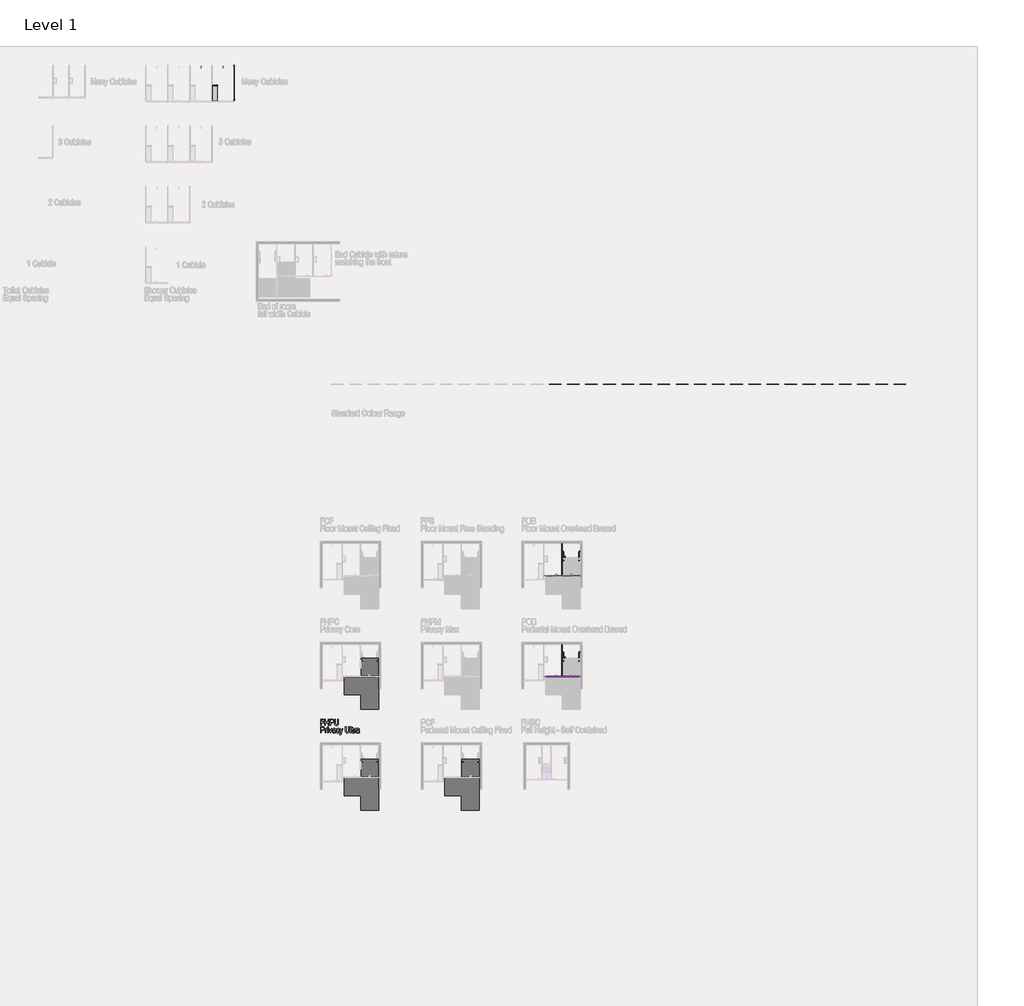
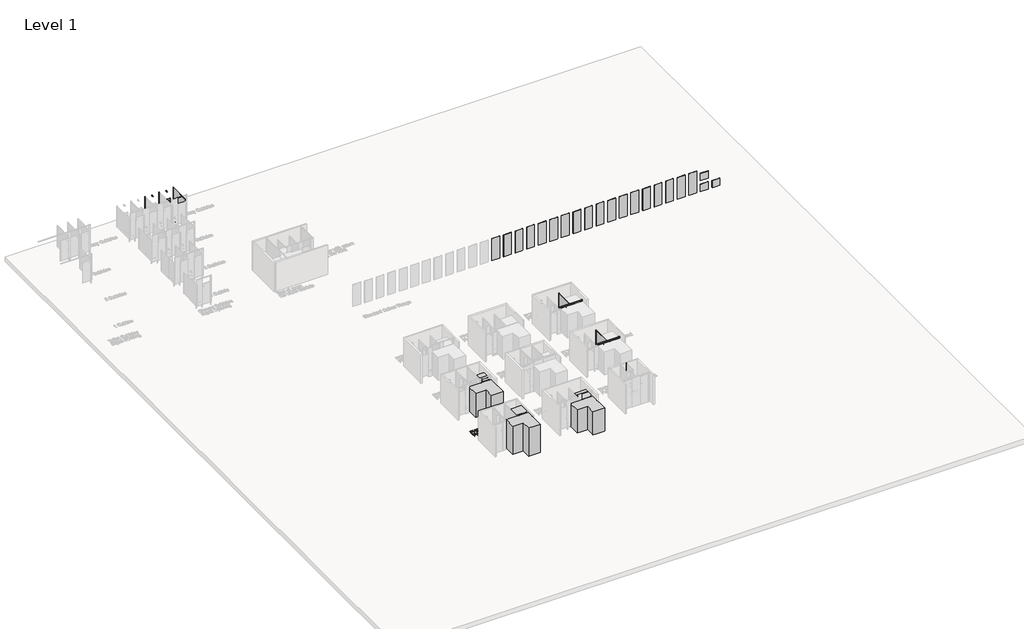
# One storey, part 7 of 21: 66 furniture elements, 13 proxies, 2 flow terminals.
"""IFC4 building model written with IfcOpenShell, lengths in millimetres."""

from ifc_helpers import new_model, si_unit, origin, origin_with_axes, place, context, project, spatial, polyline, outline, extrude, transform, mapped, element, save
from components import grab_rail_angled_generic_variable_c761e824, grab_rail_angled_generic_variable_3e2c0b31, standard_dce6ad6e, standard_8dc82752, standard_7e643c00, standard_ee242849, standard_f88c7766, standard_ef1a4fdd, toilet_paper_dispenser_single_generic_jumbo_roll_standard_5525cc7b, shower_outlet_generic_cylinder_fixed_standard_5790de0d, furniture_50x50x3_ea_0fb80352, single_jumbo_roll_84fdac57, standard_17157e73, standard_9bd00577, standard_65739662, standard_f6136b52, standard_0900acf0, standard_426d7a24, standard_dad66a1c, standard_26855e31, standard_478cbe62, standard_b3e6c0d4, standard_d9afaeec, standard_fdf829a3, standard_b1f0228c, standard_31cafe8a, standard_3d746f33, standard_ba3eb68e, standard_a495ee6c, standard_6f46902e, standard_dc7732f7, standard_b1effbfe, standard_4ddd5521

model = new_model("IFC4")

# Units and contexts
model_context = context("Model", 3, world=origin())
ifc_project = project(units=[si_unit("LENGTHUNIT", "METRE", prefix="MILLI")], contexts=[model_context])

# Site, building, storey
site = spatial("IfcSite", under=ifc_project)
building = spatial("IfcBuilding", under=site)
storey = spatial("IfcBuildingStorey", under=building, Name="Level 1", Elevation=0.0)

# Proxies
placement = place(None, origin())
element("IfcBuildingElementProxy", 1, Name="Arial Narrow-300mm", ObjectType="Arial Narrow-300mm", at=placement, inside=storey, context=model_context, shape_type="SweptSolid", body=[
    extrude(outline(polyline([(-11218.8829157, 1023.6753804), (-11218.8829157, 1328.8527498), (-11051.5275841, 1328.8527498), (-11051.5275841, 1294.3972403), (-11189.3496219, 1294.3972403), (-11189.3496219, 1195.9529276), (-11071.2164466, 1195.9529276), (-11071.2164466, 1161.4974182), (-11189.3496219, 1161.4974182), (-11189.3496219, 1023.6753804), (-11218.8829157, 1023.6753804)])), origin_with_axes(), (0.0, 0.0, 1.0), 5.0),
    extrude(outline(polyline([(-11007.2276434, 1023.6753804), (-11007.2276434, 1328.8527498), (-10977.6943496, 1328.8527498), (-10977.6943496, 1200.8751433), (-10844.7945274, 1200.8751433), (-10844.7945274, 1328.8527498), (-10815.2612336, 1328.8527498), (-10815.2612336, 1023.6753804), (-10844.7945274, 1023.6753804), (-10844.7945274, 1166.4196338), (-10977.6943496, 1166.4196338), (-10977.6943496, 1023.6753804), (-11007.2276434, 1023.6753804)])), origin_with_axes(), (0.0, 0.0, 1.0), 5.0),
    extrude(outline(polyline([(-10756.194646, 1023.6753804), (-10756.194646, 1328.8527498), (-10661.3650854, 1328.8527498), (-10632.2547945, 1327.4299218), (-10611.9891098, 1323.161438), (-10592.4156117, 1312.0960665), (-10577.2259619, 1294.4356951), (-10567.4776676, 1271.0647846), (-10564.2282362, 1242.8677954), (-10569.6407507, 1206.278044), (-10576.4063938, 1190.7663352), (-10585.8782941, 1177.1100709), (-10598.6717285, 1165.9725967), (-10615.4019742, 1158.0172579), (-10636.0690309, 1153.2440547), (-10660.6728988, 1151.6529869), (-10726.6613522, 1151.6529869), (-10726.6613522, 1023.6753804), (-10756.194646, 1023.6753804)]), holes=[polyline([(-10726.6613522, 1186.1084964), (-10657.0581467, 1186.1084964), (-10628.620815, 1189.5405881), (-10608.9896347, 1199.8368634), (-10597.5685562, 1217.0550044), (-10593.76153, 1241.2526934), (-10595.636202, 1257.9516945), (-10601.2602179, 1272.0549959), (-10609.5376157, 1282.8511837), (-10619.3724333, 1289.6288439), (-10634.273672, 1293.2051412), (-10657.7503333, 1294.3972403), (-10726.6613522, 1294.3972403), (-10726.6613522, 1186.1084964)])]), origin_with_axes(), (0.0, 0.0, 1.0), 5.0),
    extrude(outline(polyline([(-10362.4173952, 1328.8527498), (-10332.8841014, 1328.8527498), (-10332.8841014, 1152.7297216), (-10334.9895022, 1112.40024), (-10341.3057047, 1080.0116765), (-10353.1786272, 1054.5930474), (-10371.954188, 1035.1733685), (-10397.1997705, 1022.8582157), (-10428.4827582, 1018.7531648), (-10451.1158171, 1020.5989956), (-10470.7157529, 1026.1364882), (-10487.2825656, 1035.3656425), (-10500.8162551, 1048.2864586), (-10511.3312421, 1065.8891477), (-10518.8419471, 1089.1639212), (-10523.3483702, 1118.1107792), (-10524.8505112, 1152.7297216), (-10524.8505112, 1328.8527498), (-10495.3172173, 1328.8527498), (-10495.3172173, 1151.6529869), (-10493.6732742, 1115.726581), (-10488.7414449, 1091.3173906), (-10480.079499, 1074.8971869), (-10467.2452063, 1062.9377411), (-10450.6904107, 1055.6409409), (-10430.8669564, 1053.2086742), (-10399.8146976, 1058.2366406), (-10387.9946505, 1064.5215985), (-10378.6453249, 1073.3205397), (-10371.5456056, 1085.7582672), (-10366.4743776, 1102.9595842), (-10362.4173952, 1151.6529869), (-10362.4173952, 1328.8527498)])), origin_with_axes(), (0.0, 0.0, 1.0), 5.0),
    extrude(outline(polyline([(-11218.8829157, 650.573168), (-11218.8829157, 955.7505374), (-11124.0533551, 955.7505374), (-11094.9430642, 954.3277094), (-11074.6773795, 950.0592255), (-11055.1038814, 938.9938541), (-11039.9142316, 921.3334827), (-11030.1659373, 897.9625722), (-11026.9165059, 869.765583), (-11032.3290204, 833.1758316), (-11039.0946635, 817.6641228), (-11048.5665638, 804.0078585), (-11061.3599982, 792.8703843), (-11078.0902439, 784.9150455), (-11098.7573006, 780.1418423), (-11123.3611685, 778.5507745), (-11189.3496219, 778.5507745), (-11189.3496219, 650.573168), (-11218.8829157, 650.573168)]), holes=[polyline([(-11189.3496219, 813.006284), (-11119.7464164, 813.006284), (-11091.3090847, 816.4383757), (-11071.6779044, 826.734651), (-11060.2568259, 843.952792), (-11056.4497997, 868.150481), (-11058.3244717, 884.8494821), (-11063.9484876, 898.9527835), (-11072.2258854, 909.7489713), (-11082.060703, 916.5266315), (-11096.9619417, 920.1029288), (-11120.438603, 921.2950279), (-11189.3496219, 921.2950279), (-11189.3496219, 813.006284)])]), origin_with_axes(), (0.0, 0.0, 1.0), 5.0),
    extrude(outline(polyline([(-10987.5387808, 650.573168), (-10987.5387808, 872.0728716), (-10958.005487, 872.0728716), (-10958.005487, 842.693397), (-10948.122601, 859.9596065), (-10939.0857207, 870.2270407), (-10929.933476, 875.3030756), (-10919.7044966, 876.9950872), (-10904.5533016, 874.5339794), (-10889.0944681, 867.1506559), (-10898.9388994, 837.6173621), (-10921.857966, 842.5395778), (-10931.5005095, 840.7802702), (-10940.2778198, 835.5023476), (-10947.3823459, 827.0711306), (-10952.0065367, 815.8519399), (-10958.005487, 769.167801), (-10958.005487, 650.573168), (-10987.5387808, 650.573168)])), origin_with_axes(), (0.0, 0.0, 1.0), 5.0),
    extrude(outline(polyline([(-10874.3278212, 911.4505967), (-10874.3278212, 955.7505374), (-10844.7945274, 955.7505374), (-10844.7945274, 911.4505967), (-10874.3278212, 911.4505967)])), origin_with_axes(), (0.0, 0.0, 1.0), 5.0),
    extrude(outline(polyline([(-10874.3278212, 650.573168), (-10874.3278212, 872.0728716), (-10844.7945274, 872.0728716), (-10844.7945274, 650.573168), (-10874.3278212, 650.573168)])), origin_with_axes(), (0.0, 0.0, 1.0), 5.0),
    extrude(outline(polyline([(-10746.504034, 650.573168), (-10816.1841491, 872.0728716), (-10785.7279398, 872.0728716), (-10745.9656666, 739.4806879), (-10734.0446756, 694.8731087), (-10722.8158712, 737.0195801), (-10682.3614115, 872.0728716), (-10651.9052022, 872.0728716), (-10716.4323728, 650.573168), (-10746.504034, 650.573168)])), origin_with_axes(), (0.0, 0.0, 1.0), 5.0),
    extrude(outline(polyline([(-10505.1616486, 678.1068117), (-10520.783915, 663.9554418), (-10537.0406858, 653.803372), (-10553.9319609, 647.6890573), (-10571.4577404, 645.6509524), (-10596.7610052, 649.9386636), (-10616.3729581, 662.8017975), (-10628.9476809, 682.9136629), (-10633.1392551, 708.9475691), (-10631.1299913, 727.0790118), (-10625.1021999, 743.0185304), (-10615.5942482, 756.2373712), (-10603.1445036, 766.2067806), (-10585.6283378, 773.4651259), (-10560.9211226, 778.5507745), (-10527.9845781, 785.3572758), (-10505.1616486, 793.3174214), (-10505.1616486, 802.7773046), (-10507.2574357, 821.889345), (-10513.5447971, 834.3102485), (-10528.4652633, 844.1739072), (-10549.6923182, 847.4617934), (-10568.919723, 845.3948474), (-10582.6096352, 839.1940093), (-10592.0887458, 827.282632), (-10598.6837457, 808.0840683), (-10628.2170395, 813.006284), (-10618.4302904, 841.9146871), (-10601.9908593, 861.7285278), (-10577.9758307, 873.1784474), (-10545.4622891, 876.9950872), (-10519.8706133, 874.3128642), (-10500.4701618, 866.2661953), (-10487.1744114, 854.258681), (-10479.8968387, 839.6939219), (-10475.6283548, 793.394331), (-10475.6283548, 743.3261689), (-10473.6287047, 677.1454415), (-10465.7839235, 650.573168), (-10495.3172173, 650.573168), (-10501.5468965, 663.2248004), (-10505.1616486, 678.1068117)]), holes=[polyline([(-10505.1616486, 763.7841276), (-10527.2539368, 755.7470724), (-10557.9985571, 749.0174807), (-10586.493571, 741.288064), (-10599.1067486, 728.9825249), (-10603.6059613, 710.6395807), (-10601.0294891, 696.1132763), (-10593.3000723, 684.8364034), (-10581.0137606, 677.5972855), (-10564.7666036, 675.1842462), (-10548.2502628, 677.3665566), (-10533.3105693, 683.913488), (-10520.947348, 694.1040125), (-10512.160424, 707.2171026), (-10506.9113425, 725.1274302), (-10505.1616486, 749.7096673), (-10505.1616486, 763.7841276)])]), origin_with_axes(), (0.0, 0.0, 1.0), 5.0),
    extrude(outline(polyline([(-10318.1174545, 729.3286182), (-10288.5841607, 724.4064025), (-10297.6691095, 690.5757837), (-10314.6180668, 665.8397274), (-10337.5852019, 650.6981461), (-10364.7246838, 645.6509524), (-10381.7024822, 647.4799593), (-10397.1036335, 652.9669799), (-10410.9281376, 662.1120143), (-10423.1759944, 674.9150625), (-10433.2030861, 691.3040217), (-10440.3652944, 711.2067891), (-10444.6626193, 734.6233648), (-10446.095061, 761.5537487), (-10444.6193577, 788.5946901), (-10440.1922477, 812.0353), (-10432.8137311, 831.8755784), (-10422.4838079, 848.1155252), (-10409.8369823, 860.7503336), (-10395.5077589, 869.7751967), (-10379.4961375, 875.1901146), (-10361.8021182, 876.9950872), (-10335.5086421, 872.6881485), (-10313.6951514, 859.7673325), (-10297.6306546, 838.2326391), (-10288.5841607, 808.0840683), (-10318.1174545, 803.1618527), (-10324.4240433, 822.5911453), (-10334.1146553, 836.425263), (-10346.6316958, 844.7026608), (-10361.4175701, 847.4617934), (-10383.2118335, 842.3569174), (-10400.9106597, 827.0422895), (-10412.6489903, 800.6142216), (-10416.5617672, 762.1690256), (-10412.918174, 722.5990265), (-10401.9873943, 695.7191145), (-10385.3653029, 680.3179633), (-10364.6477742, 675.1842462), (-10348.1025923, 678.4817461), (-10334.1531101, 688.3742459), (-10323.81838, 705.2078388), (-10318.1174545, 729.3286182)])), origin_with_axes(), (0.0, 0.0, 1.0), 5.0),
    extrude(outline(polyline([(-10263.9730825, 566.8955022), (-10263.9730825, 601.3510117), (-10248.5911586, 596.428796), (-10234.3628791, 600.7357347), (-10225.1337248, 614.1949181), (-10212.751276, 654.0341009), (-10278.7397294, 872.0728716), (-10248.1297009, 872.0728716), (-10210.4439875, 752.5553232), (-10197.4462618, 704.7944496), (-10185.1407227, 751.786227), (-10146.9166419, 872.0728716), (-10116.3066134, 872.0728716), (-10184.2947169, 646.8815063), (-10205.2525882, 589.2377466), (-10213.4146215, 576.7687746), (-10222.5957073, 568.356785), (-10232.9400511, 563.5691612), (-10244.5918584, 561.9732866), (-10263.9730825, 566.8955022)])), origin_with_axes(), (0.0, 0.0, 1.0), 5.0),
    extrude(outline(polyline([(-9825.895891, 955.7505374), (-9796.3625972, 955.7505374), (-9796.3625972, 779.6275092), (-9798.467998, 739.2980276), (-9804.7842005, 706.9094641), (-9816.657123, 681.490835), (-9835.4326838, 662.0711561), (-9860.6782663, 649.7560033), (-9891.961254, 645.6509524), (-9914.5943129, 647.4967832), (-9934.1942487, 653.0342758), (-9950.7610613, 662.2634301), (-9964.2947509, 675.1842462), (-9974.8097379, 692.7869353), (-9982.3204429, 716.0617088), (-9986.8268659, 745.0085668), (-9988.3290069, 779.6275092), (-9988.3290069, 955.7505374), (-9958.7957131, 955.7505374), (-9958.7957131, 778.5507745), (-9957.15177, 742.6243686), (-9952.2199407, 718.2151782), (-9943.5579948, 701.7949745), (-9930.7237021, 689.8355287), (-9914.1689065, 682.5387285), (-9894.3454522, 680.1064618), (-9863.2931934, 685.1344282), (-9851.4731462, 691.4193861), (-9842.1238207, 700.2183273), (-9835.0241014, 712.6560548), (-9829.9528734, 729.8573718), (-9825.895891, 778.5507745), (-9825.895891, 955.7505374)])), origin_with_axes(), (0.0, 0.0, 1.0), 5.0),
    extrude(outline(polyline([(-9737.2960095, 650.573168), (-9737.2960095, 955.7505374), (-9707.7627157, 955.7505374), (-9707.7627157, 650.573168), (-9737.2960095, 650.573168)])), origin_with_axes(), (0.0, 0.0, 1.0), 5.0),
    extrude(outline(polyline([(-9594.5517561, 675.1842462), (-9589.6295405, 645.6509524), (-9611.9333301, 645.6509524), (-9625.9693356, 647.2564407), (-9637.005866, 652.0729056), (-9645.0429212, 659.6773442), (-9650.0805013, 669.6467536), (-9653.6183438, 714.0236039), (-9653.6183438, 842.5395778), (-9678.2294219, 842.5395778), (-9678.2294219, 872.0728716), (-9653.6183438, 872.0728716), (-9653.6183438, 921.2950279), (-9624.0850499, 945.9061061), (-9624.0850499, 872.0728716), (-9594.5517561, 872.0728716), (-9594.5517561, 842.5395778), (-9624.0850499, 842.5395778), (-9624.0850499, 707.2555574), (-9621.4701229, 683.0290273), (-9616.1249043, 677.1454415), (-9607.4725722, 675.1842462), (-9594.5517561, 675.1842462)])), origin_with_axes(), (0.0, 0.0, 1.0), 5.0),
    extrude(outline(polyline([(-9560.0962467, 650.573168), (-9560.0962467, 872.0728716), (-9530.5629529, 872.0728716), (-9530.5629529, 842.693397), (-9520.6800668, 859.9596065), (-9511.6431865, 870.2270407), (-9502.4909418, 875.3030756), (-9492.2619625, 876.9950872), (-9477.1107675, 874.5339794), (-9461.651934, 867.1506559), (-9471.4963653, 837.6173621), (-9494.4154318, 842.5395778), (-9504.0579753, 840.7802702), (-9512.8352856, 835.5023476), (-9519.9398117, 827.0711306), (-9524.5640026, 815.8519399), (-9530.5629529, 769.167801), (-9530.5629529, 650.573168), (-9560.0962467, 650.573168)])), origin_with_axes(), (0.0, 0.0, 1.0), 5.0),
    extrude(outline(polyline([(-9328.7521118, 678.1068117), (-9344.3743783, 663.9554418), (-9360.631149, 653.803372), (-9377.5224242, 647.6890573), (-9395.0482037, 645.6509524), (-9420.3514684, 649.9386636), (-9439.9634213, 662.8017975), (-9452.5381441, 682.9136629), (-9456.7297184, 708.9475691), (-9454.7204545, 727.0790118), (-9448.6926631, 743.0185304), (-9439.1847115, 756.2373712), (-9426.7349668, 766.2067806), (-9409.218801, 773.4651259), (-9384.5115858, 778.5507745), (-9351.5750414, 785.3572758), (-9328.7521118, 793.3174214), (-9328.7521118, 802.7773046), (-9330.847899, 821.889345), (-9337.1352603, 834.3102485), (-9352.0557265, 844.1739072), (-9373.2827814, 847.4617934), (-9392.5101862, 845.3948474), (-9406.2000985, 839.1940093), (-9415.6792091, 827.282632), (-9422.2742089, 808.0840683), (-9451.8075027, 813.006284), (-9442.0207537, 841.9146871), (-9425.5813225, 861.7285278), (-9401.5662939, 873.1784474), (-9369.0527524, 876.9950872), (-9343.4610765, 874.3128642), (-9324.0606251, 866.2661953), (-9310.7648746, 854.258681), (-9303.4873019, 839.6939219), (-9299.218818, 793.394331), (-9299.218818, 743.3261689), (-9297.2191679, 677.1454415), (-9289.3743868, 650.573168), (-9318.9076806, 650.573168), (-9325.1373597, 663.2248004), (-9328.7521118, 678.1068117)]), holes=[polyline([(-9328.7521118, 763.7841276), (-9350.8444, 755.7470724), (-9381.5890203, 749.0174807), (-9410.0840342, 741.288064), (-9422.6972118, 728.9825249), (-9427.1964245, 710.6395807), (-9424.6199523, 696.1132763), (-9416.8905356, 684.8364034), (-9404.6042239, 677.5972855), (-9388.3570668, 675.1842462), (-9371.8407261, 677.3665566), (-9356.9010325, 683.913488), (-9344.5378112, 694.1040125), (-9335.7508872, 707.2171026), (-9330.5018057, 725.1274302), (-9328.7521118, 749.7096673), (-9328.7521118, 763.7841276)])]), origin_with_axes(), (0.0, 0.0, 1.0), 5.0),
])
grab_rail_angled_generic_variable_shape = grab_rail_angled_generic_variable_c761e824(model_context)
element("IfcBuildingElementProxy", 2, Name="Grab Rail-Angled-Generic-Variable : Ambulant-32Ø 450+450@90°", ObjectType="Grab Rail-Angled-Generic-Variable : Ambulant-32Ø 450+450@90°", at=placement, inside=storey, context=model_context, shape_type="MappedRepresentation", body=[
    mapped(grab_rail_angled_generic_variable_shape, transform((764.583348, 9438.4657683, 784.0), x_axis=(0.0, 1.0, 0.0), y_axis=(0.0, 0.0, 1.0), z_axis=(1.0, 0.0, 0.0))),
])
element("IfcBuildingElementProxy", 3, Name="Grab Rail-Angled-Generic-Variable : Ambulant-32Ø 450+450@90°", ObjectType="Grab Rail-Angled-Generic-Variable : Ambulant-32Ø 450+450@90°", at=placement, inside=storey, context=model_context, shape_type="MappedRepresentation", body=[
    mapped(grab_rail_angled_generic_variable_shape, transform((764.583348, 4438.4657683, 784.0), x_axis=(0.0, 1.0, 0.0), y_axis=(0.0, 0.0, 1.0), z_axis=(1.0, 0.0, 0.0))),
])
grab_rail_angled_generic_variable_2_shape = grab_rail_angled_generic_variable_3e2c0b31(model_context)
element("IfcBuildingElementProxy", 4, Name="Grab Rail-Angled-Generic-Variable : Ambulant-32Ø 450+450@90°", ObjectType="Grab Rail-Angled-Generic-Variable : Ambulant-32Ø 450+450@90°", at=placement, inside=storey, context=model_context, shape_type="MappedRepresentation", body=[
    mapped(grab_rail_angled_generic_variable_2_shape, transform((1664.583348, 9438.4657683, 784.0), x_axis=(0.0, 1.0, 0.0), y_axis=(0.0, 0.0, -1.0), z_axis=(-1.0, 0.0, 0.0))),
])
element("IfcBuildingElementProxy", 5, Name="Grab Rail-Angled-Generic-Variable : Ambulant-32Ø 450+450@90°", ObjectType="Grab Rail-Angled-Generic-Variable : Ambulant-32Ø 450+450@90°", at=placement, inside=storey, context=model_context, shape_type="MappedRepresentation", body=[
    mapped(grab_rail_angled_generic_variable_2_shape, transform((1664.583348, 4438.4657683, 784.0), x_axis=(0.0, 1.0, 0.0), y_axis=(0.0, 0.0, -1.0), z_axis=(-1.0, 0.0, 0.0))),
])
standard_shape = standard_dce6ad6e(model_context)
element("IfcBuildingElementProxy", 6, Name="Clearance-Door-Circulation-AS1428.1-2021-Duracube : Standard", ObjectType="Clearance-Door-Circulation-AS1428.1-2021-Duracube : Standard", at=placement, inside=storey, context=model_context, shape_type="MappedRepresentation", body=[
    mapped(standard_shape, transform((-8787.916652, -2371.0342317, 0.0), x_axis=(1.0, 0.0, 0.0), y_axis=(0.0, 1.0, 0.0), z_axis=(0.0, 0.0, 1.0))),
])
standard_2_shape = standard_8dc82752(model_context)
element("IfcBuildingElementProxy", 7, Name="Clearance-Door-Circulation-AS1428.1-2021-Duracube : Standard", ObjectType="Clearance-Door-Circulation-AS1428.1-2021-Duracube : Standard", at=placement, inside=storey, context=model_context, shape_type="MappedRepresentation", body=[
    mapped(standard_2_shape, transform((-8787.916652, -1095.5342317, 0.0), x_axis=(1.0, 0.0, 0.0), y_axis=(0.0, 1.0, 0.0), z_axis=(0.0, 0.0, 1.0))),
])
standard_3_shape = standard_7e643c00(model_context)
element("IfcBuildingElementProxy", 8, Name="Clearance-Door-Circulation-AS1428.1-2021-Duracube : Standard", ObjectType="Clearance-Door-Circulation-AS1428.1-2021-Duracube : Standard", at=placement, inside=storey, context=model_context, shape_type="MappedRepresentation", body=[
    mapped(standard_3_shape, transform((-8787.916652, 2628.9657683, 0.0), x_axis=(1.0, 0.0, 0.0), y_axis=(0.0, 1.0, 0.0), z_axis=(0.0, 0.0, 1.0))),
])
standard_4_shape = standard_ee242849(model_context)
element("IfcBuildingElementProxy", 9, Name="Clearance-Door-Circulation-AS1428.1-2021-Duracube : Standard", ObjectType="Clearance-Door-Circulation-AS1428.1-2021-Duracube : Standard", at=placement, inside=storey, context=model_context, shape_type="MappedRepresentation", body=[
    mapped(standard_4_shape, transform((-8787.916652, 3904.4657683, 0.0), x_axis=(1.0, 0.0, 0.0), y_axis=(0.0, 1.0, 0.0), z_axis=(0.0, 0.0, 1.0))),
])
standard_5_shape = standard_f88c7766(model_context)
element("IfcBuildingElementProxy", 10, Name="Clearance-Door-Circulation-AS1428.1-2021-Duracube : Standard", ObjectType="Clearance-Door-Circulation-AS1428.1-2021-Duracube : Standard", at=placement, inside=storey, context=model_context, shape_type="MappedRepresentation", body=[
    mapped(standard_5_shape, transform((-3787.916652, -2371.0342317, 0.0), x_axis=(1.0, 0.0, 0.0), y_axis=(0.0, 1.0, 0.0), z_axis=(0.0, 0.0, 1.0))),
])
standard_6_shape = standard_ef1a4fdd(model_context)
element("IfcBuildingElementProxy", 11, Name="Clearance-Door-Circulation-AS1428.1-2021-Duracube : Standard", ObjectType="Clearance-Door-Circulation-AS1428.1-2021-Duracube : Standard", at=placement, inside=storey, context=model_context, shape_type="MappedRepresentation", body=[
    mapped(standard_6_shape, transform((-3787.916652, -1095.5342317, 0.0), x_axis=(1.0, 0.0, 0.0), y_axis=(0.0, 1.0, 0.0), z_axis=(0.0, 0.0, 1.0))),
])
toilet_paper_dispenser_single_generic_jumbo_roll_standard_shape = toilet_paper_dispenser_single_generic_jumbo_roll_standard_5525cc7b(model_context)
element("IfcBuildingElementProxy", 12, Name="Toilet Paper Dispenser-Single-Generic-Jumbo Roll : Standard", ObjectType="Toilet Paper Dispenser-Single-Generic-Jumbo Roll : Standard", at=placement, inside=storey, context=model_context, shape_type="MappedRepresentation", body=[
    mapped(toilet_paper_dispenser_single_generic_jumbo_roll_standard_shape, transform((764.583348, 9284.4657683, 561.5), x_axis=(0.0, 1.0000000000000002, 0.0), y_axis=(0.0, 0.0, 1.0), z_axis=(1.0000000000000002, 0.0, 0.0))),
])
element("IfcBuildingElementProxy", 13, Name="Toilet Paper Dispenser-Single-Generic-Jumbo Roll : Standard", ObjectType="Toilet Paper Dispenser-Single-Generic-Jumbo Roll : Standard", at=placement, inside=storey, context=model_context, shape_type="MappedRepresentation", body=[
    mapped(toilet_paper_dispenser_single_generic_jumbo_roll_standard_shape, transform((764.583348, 4284.4657683, 561.5), x_axis=(0.0, 1.0000000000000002, 0.0), y_axis=(0.0, 0.0, 1.0), z_axis=(1.0000000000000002, 0.0, 0.0))),
])

# Flow terminals
shower_outlet_generic_cylinder_fixed_standard_shape = shower_outlet_generic_cylinder_fixed_standard_5790de0d(model_context)
element("IfcFlowTerminal", 14, ObjectType="Shower-Outlet-Generic-Cylinder-Fixed : Standard", at=placement, inside=storey, context=model_context, shape_type="MappedRepresentation", body=[
    mapped(shower_outlet_generic_cylinder_fixed_standard_shape, transform((-16056.6551542, 33782.2607897, 1800.0), x_axis=(1.0, 0.0, 0.0), y_axis=(0.0, 0.0, 1.0), z_axis=(0.0, -1.0, 0.0))),
])
element("IfcFlowTerminal", 15, ObjectType="Shower-Outlet-Generic-Cylinder-Fixed : Standard", at=placement, inside=storey, context=model_context, shape_type="MappedRepresentation", body=[
    mapped(shower_outlet_generic_cylinder_fixed_standard_shape, transform((-17153.4051542, 33782.2607897, 1800.0), x_axis=(1.0, 0.0, 0.0), y_axis=(0.0, 0.0, 1.0), z_axis=(0.0, -1.0, 0.0))),
])

# Furniture
furniture_50x50x3_ea_shape = furniture_50x50x3_ea_0fb80352(model_context)
element("IfcFurniture", 16, ObjectType="X_Partition-Angle-Duracube-Shower Seat : 50x50x3 EA", at=placement, inside=storey, context=model_context, shape_type="MappedRepresentation", body=[
    mapped(furniture_50x50x3_ea_shape, transform((-16598.5301542, 32719.2607897, 462.0), x_axis=(0.0, -1.0, 0.0), y_axis=(0.0, 0.0, -1.0), z_axis=(1.0, 0.0, 0.0))),
])
element("IfcFurniture", 17, ObjectType="X_Partition-Angle-Duracube-Shower Seat : 50x50x3 EA", at=placement, inside=storey, context=model_context, shape_type="MappedRepresentation", body=[
    mapped(furniture_50x50x3_ea_shape, transform((-16598.5301542, 32032.2607897, 462.0), x_axis=(0.0, -1.0, 0.0), y_axis=(0.0, 0.0, -1.0), z_axis=(1.0, 0.0, 0.0))),
])
element("IfcFurniture", 18, ObjectType="X_Partition-Angle-Duracube-Shower Seat : 50x50x3 EA", at=placement, inside=storey, context=model_context, shape_type="MappedRepresentation", body=[
    mapped(furniture_50x50x3_ea_shape, transform((-16598.5301542, 32375.7607897, 462.0), x_axis=(0.0, -1.0, 0.0), y_axis=(0.0, 0.0, -1.0), z_axis=(1.0, 0.0, 0.0))),
])
element("IfcFurniture", 19, ObjectType="X_Partition-Angle-Duracube-Shower Seat : 50x50x3 EA", at=placement, inside=storey, context=model_context, shape_type="MappedRepresentation", body=[
    mapped(furniture_50x50x3_ea_shape, transform((-16383.5301542, 32769.2607897, 462.0), x_axis=(-1.0, 0.0, 0.0), y_axis=(0.0, 0.0, -1.0), z_axis=(0.0, -1.0, 0.0))),
])
element("IfcFurniture", 20, ObjectType="X_Partition-Angle-Duracube-Shower Seat : 50x50x3 EA", at=placement, inside=storey, context=model_context, shape_type="MappedRepresentation", body=[
    mapped(furniture_50x50x3_ea_shape, transform((-16383.5301542, 32007.2607897, 487.0), x_axis=(-1.0, 0.0, 0.0), y_axis=(0.0, 1.0, 0.0), z_axis=(0.0, 0.0, -1.0))),
])
single_jumbo_roll_shape = single_jumbo_roll_84fdac57(model_context)
element("IfcFurniture", 21, ObjectType="X_Partition-Compact Laminate-Duracube-Rectangular : Single Jumbo Roll", at=placement, inside=storey, context=model_context, shape_type="MappedRepresentation", body=[
    mapped(single_jumbo_roll_shape, transform((751.583348, 9209.7654418, 0.0), x_axis=(0.0, 1.0000000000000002, 0.0), y_axis=(-1.0000000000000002, 0.0, 0.0), z_axis=(0.0, 0.0, 1.0))),
])
element("IfcFurniture", 22, ObjectType="X_Partition-Compact Laminate-Duracube-Rectangular : Single Jumbo Roll", at=placement, inside=storey, context=model_context, shape_type="MappedRepresentation", body=[
    mapped(single_jumbo_roll_shape, transform((751.583348, 4209.7654418, 0.0), x_axis=(0.0, 1.0000000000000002, 0.0), y_axis=(-1.0000000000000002, 0.0, 0.0), z_axis=(0.0, 0.0, 1.0))),
])
standard_7_shape = standard_17157e73(model_context)
element("IfcFurniture", 23, ObjectType="X_Partition-Compact Laminate-Duracube-Rectangular : Standard", at=placement, inside=storey, context=model_context, shape_type="MappedRepresentation", body=[
    mapped(standard_7_shape, transform((-15514.7801542, 32837.5604633, 0.0), x_axis=(0.0, 1.0000000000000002, 0.0), y_axis=(-1.0000000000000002, 0.0, 0.0), z_axis=(0.0, 0.0, 1.0))),
])
standard_8_shape = standard_9bd00577(model_context)
element("IfcFurniture", 24, ObjectType="X_Partition-Compact Laminate-Duracube-Rectangular : Standard", at=placement, inside=storey, context=model_context, shape_type="MappedRepresentation", body=[
    mapped(standard_8_shape, transform((369.8830216, 17955.4926651, 0.0), x_axis=(1.0, 0.0, 0.0), y_axis=(0.0, 1.0, 0.0), z_axis=(0.0, 0.0, 1.0))),
])
element("IfcFurniture", 25, ObjectType="X_Partition-Compact Laminate-Duracube-Rectangular : Standard", at=placement, inside=storey, context=model_context, shape_type="MappedRepresentation", body=[
    mapped(standard_8_shape, transform((369.8830216, 17955.4926651, 0.0), x_axis=(1.0, 0.0, 0.0), y_axis=(0.0, 1.0, 0.0), z_axis=(0.0, 0.0, 1.0))),
])
element("IfcFurniture", 26, ObjectType="X_Partition-Compact Laminate-Duracube-Rectangular : Standard", at=placement, inside=storey, context=model_context, shape_type="MappedRepresentation", body=[
    mapped(standard_8_shape, transform((1269.8830216, 17955.4926651, 0.0), x_axis=(1.0, 0.0, 0.0), y_axis=(0.0, 1.0, 0.0), z_axis=(0.0, 0.0, 1.0))),
])
element("IfcFurniture", 27, ObjectType="X_Partition-Compact Laminate-Duracube-Rectangular : Standard", at=placement, inside=storey, context=model_context, shape_type="MappedRepresentation", body=[
    mapped(standard_8_shape, transform((3069.8830216, 17955.4926651, 0.0), x_axis=(1.0, 0.0, 0.0), y_axis=(0.0, 1.0, 0.0), z_axis=(0.0, 0.0, 1.0))),
])
element("IfcFurniture", 28, ObjectType="X_Partition-Compact Laminate-Duracube-Rectangular : Standard", at=placement, inside=storey, context=model_context, shape_type="MappedRepresentation", body=[
    mapped(standard_8_shape, transform((3969.8830216, 17955.4926651, 0.0), x_axis=(1.0, 0.0, 0.0), y_axis=(0.0, 1.0, 0.0), z_axis=(0.0, 0.0, 1.0))),
])
element("IfcFurniture", 29, ObjectType="X_Partition-Compact Laminate-Duracube-Rectangular : Standard", at=placement, inside=storey, context=model_context, shape_type="MappedRepresentation", body=[
    mapped(standard_8_shape, transform((4869.8830216, 17955.4926651, 0.0), x_axis=(1.0, 0.0, 0.0), y_axis=(0.0, 1.0, 0.0), z_axis=(0.0, 0.0, 1.0))),
])
element("IfcFurniture", 30, ObjectType="X_Partition-Compact Laminate-Duracube-Rectangular : Standard", at=placement, inside=storey, context=model_context, shape_type="MappedRepresentation", body=[
    mapped(standard_8_shape, transform((5769.8830216, 17955.4926651, 0.0), x_axis=(1.0, 0.0, 0.0), y_axis=(0.0, 1.0, 0.0), z_axis=(0.0, 0.0, 1.0))),
])
element("IfcFurniture", 31, ObjectType="X_Partition-Compact Laminate-Duracube-Rectangular : Standard", at=placement, inside=storey, context=model_context, shape_type="MappedRepresentation", body=[
    mapped(standard_8_shape, transform((7569.8830216, 17955.4926651, 0.0), x_axis=(1.0, 0.0, 0.0), y_axis=(0.0, 1.0, 0.0), z_axis=(0.0, 0.0, 1.0))),
])
element("IfcFurniture", 32, ObjectType="X_Partition-Compact Laminate-Duracube-Rectangular : Standard", at=placement, inside=storey, context=model_context, shape_type="MappedRepresentation", body=[
    mapped(standard_8_shape, transform((8469.8830216, 17955.4926651, 0.0), x_axis=(1.0, 0.0, 0.0), y_axis=(0.0, 1.0, 0.0), z_axis=(0.0, 0.0, 1.0))),
])
element("IfcFurniture", 33, ObjectType="X_Partition-Compact Laminate-Duracube-Rectangular : Standard", at=placement, inside=storey, context=model_context, shape_type="MappedRepresentation", body=[
    mapped(standard_8_shape, transform((10269.8830216, 17955.4926651, 0.0), x_axis=(1.0, 0.0, 0.0), y_axis=(0.0, 1.0, 0.0), z_axis=(0.0, 0.0, 1.0))),
])
element("IfcFurniture", 34, ObjectType="X_Partition-Compact Laminate-Duracube-Rectangular : Standard", at=placement, inside=storey, context=model_context, shape_type="MappedRepresentation", body=[
    mapped(standard_8_shape, transform((11169.8830216, 17955.4926651, 0.0), x_axis=(1.0, 0.0, 0.0), y_axis=(0.0, 1.0, 0.0), z_axis=(0.0, 0.0, 1.0))),
])
element("IfcFurniture", 35, ObjectType="X_Partition-Compact Laminate-Duracube-Rectangular : Standard", at=placement, inside=storey, context=model_context, shape_type="MappedRepresentation", body=[
    mapped(standard_8_shape, transform((12069.8830216, 17955.4926651, 0.0), x_axis=(1.0, 0.0, 0.0), y_axis=(0.0, 1.0, 0.0), z_axis=(0.0, 0.0, 1.0))),
])
element("IfcFurniture", 36, ObjectType="X_Partition-Compact Laminate-Duracube-Rectangular : Standard", at=placement, inside=storey, context=model_context, shape_type="MappedRepresentation", body=[
    mapped(standard_8_shape, transform((12969.8830216, 17955.4926651, 0.0), x_axis=(1.0, 0.0, 0.0), y_axis=(0.0, 1.0, 0.0), z_axis=(0.0, 0.0, 1.0))),
])
element("IfcFurniture", 37, ObjectType="X_Partition-Compact Laminate-Duracube-Rectangular : Standard", at=placement, inside=storey, context=model_context, shape_type="MappedRepresentation", body=[
    mapped(standard_8_shape, transform((13869.8830216, 17955.4926651, 0.0), x_axis=(1.0, 0.0, 0.0), y_axis=(0.0, 1.0, 0.0), z_axis=(0.0, 0.0, 1.0))),
])
element("IfcFurniture", 38, ObjectType="X_Partition-Compact Laminate-Duracube-Rectangular : Standard", at=placement, inside=storey, context=model_context, shape_type="MappedRepresentation", body=[
    mapped(standard_8_shape, transform((14769.8830216, 17955.4926651, 0.0), x_axis=(1.0, 0.0, 0.0), y_axis=(0.0, 1.0, 0.0), z_axis=(0.0, 0.0, 1.0))),
])
element("IfcFurniture", 39, ObjectType="X_Partition-Compact Laminate-Duracube-Rectangular : Standard", at=placement, inside=storey, context=model_context, shape_type="MappedRepresentation", body=[
    mapped(standard_8_shape, transform((15669.8830216, 17955.4926651, 0.0), x_axis=(1.0, 0.0, 0.0), y_axis=(0.0, 1.0, 0.0), z_axis=(0.0, 0.0, 1.0))),
])
standard_9_shape = standard_65739662(model_context)
element("IfcFurniture", 40, ObjectType="X_Partition-Compact Laminate-Duracube-Shower Seat & Division : Standard", at=placement, inside=storey, context=model_context, shape_type="MappedRepresentation", body=[
    mapped(standard_9_shape, transform((-16419.8298277, 32782.2607897, 0.0), x_axis=(-1.0, 0.0, 0.0), y_axis=(0.0, -1.0, 0.0), z_axis=(0.0, 0.0, 1.0))),
])
standard_10_shape = standard_f6136b52(model_context)
element("IfcFurniture", 41, ObjectType="X_Partition-Channel-Duracube-End : Standard", at=placement, inside=storey, context=model_context, shape_type="MappedRepresentation", body=[
    mapped(standard_10_shape, transform((-16628.2304806, 32769.2607897, 0.0), x_axis=(1.0000000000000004, 0.0, 0.0), y_axis=(0.0, 1.0000000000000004, 0.0), z_axis=(0.0, 0.0, 1.0))),
])
standard_11_shape = standard_0900acf0(model_context)
element("IfcFurniture", 42, ObjectType="X_Partition-Channel-Duracube-End : Standard", at=placement, inside=storey, context=model_context, shape_type="MappedRepresentation", body=[
    mapped(standard_11_shape, transform((1694.2836745, 8454.4657683, 0.0), x_axis=(-1.0000000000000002, 0.0, 0.0), y_axis=(0.0, -1.0000000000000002, 0.0), z_axis=(0.0, 0.0, 1.0))),
])
standard_12_shape = standard_426d7a24(model_context)
element("IfcFurniture", 43, ObjectType="X_Partition-Compact Laminate-Duracube-Rectangular : Standard", at=placement, inside=storey, context=model_context, shape_type="MappedRepresentation", body=[
    mapped(standard_12_shape, transform((1574.3830216, 8454.4657683, 0.0), x_axis=(1.0, 0.0, 0.0), y_axis=(0.0, 1.0, 0.0), z_axis=(0.0, 0.0, 1.0))),
])
standard_13_shape = standard_dad66a1c(model_context)
element("IfcFurniture", 44, ObjectType="X_Partition-Compact Laminate-Duracube-Rectangular : Standard", at=placement, inside=storey, context=model_context, shape_type="MappedRepresentation", body=[
    mapped(standard_13_shape, transform((662.3830216, 8454.4657683, 0.0), x_axis=(1.0, 0.0, 0.0), y_axis=(0.0, 1.0, 0.0), z_axis=(0.0, 0.0, 1.0))),
])
standard_14_shape = standard_26855e31(model_context)
element("IfcFurniture", 45, ObjectType="X_Partition-Channel-Duracube-End : Standard", at=placement, inside=storey, context=model_context, shape_type="MappedRepresentation", body=[
    mapped(standard_14_shape, transform((1694.2836745, 3454.4657683, 0.0), x_axis=(-1.0000000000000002, 0.0, 0.0), y_axis=(0.0, -1.0000000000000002, 0.0), z_axis=(0.0, 0.0, 1.0))),
])
standard_15_shape = standard_478cbe62(model_context)
element("IfcFurniture", 46, ObjectType="X_Partition-Compact Laminate-Duracube-Rectangular : Standard", at=placement, inside=storey, context=model_context, shape_type="MappedRepresentation", body=[
    mapped(standard_15_shape, transform((1574.3830216, 3454.4657683, 0.0), x_axis=(1.0, 0.0, 0.0), y_axis=(0.0, 1.0, 0.0), z_axis=(0.0, 0.0, 1.0))),
])
standard_16_shape = standard_b3e6c0d4(model_context)
element("IfcFurniture", 47, ObjectType="X_Partition-Compact Laminate-Duracube-Rectangular : Standard", at=placement, inside=storey, context=model_context, shape_type="MappedRepresentation", body=[
    mapped(standard_16_shape, transform((662.3830216, 3454.4657683, 0.0), x_axis=(1.0, 0.0, 0.0), y_axis=(0.0, 1.0, 0.0), z_axis=(0.0, 0.0, 1.0))),
])
element("IfcFurniture", 48, ObjectType="X_Partition-Compact Laminate-Duracube-Rectangular : Standard", at=placement, inside=storey, context=model_context, shape_type="MappedRepresentation", body=[
    mapped(standard_8_shape, transform((2169.8830216, 17955.4926651, 0.0), x_axis=(1.0, 0.0, 0.0), y_axis=(0.0, 1.0, 0.0), z_axis=(0.0, 0.0, 1.0))),
])
element("IfcFurniture", 49, ObjectType="X_Partition-Compact Laminate-Duracube-Rectangular : Standard", at=placement, inside=storey, context=model_context, shape_type="MappedRepresentation", body=[
    mapped(standard_8_shape, transform((6669.8830216, 17955.4926651, 0.0), x_axis=(1.0, 0.0, 0.0), y_axis=(0.0, 1.0, 0.0), z_axis=(0.0, 0.0, 1.0))),
])
element("IfcFurniture", 50, ObjectType="X_Partition-Compact Laminate-Duracube-Rectangular : Standard", at=placement, inside=storey, context=model_context, shape_type="MappedRepresentation", body=[
    mapped(standard_8_shape, transform((9369.8830216, 17955.4926651, 0.0), x_axis=(1.0, 0.0, 0.0), y_axis=(0.0, 1.0, 0.0), z_axis=(0.0, 0.0, 1.0))),
])
standard_17_shape = standard_d9afaeec(model_context)
element("IfcFurniture", 51, ObjectType="X_Partition-Compact Laminate-Duracube-Door : Standard", at=placement, inside=storey, context=model_context, shape_type="MappedRepresentation", body=[
    mapped(standard_17_shape, transform((219.8830216, 8454.4657683, 0.0), x_axis=(1.0, 0.0, 0.0), y_axis=(0.0, 1.0, 0.0), z_axis=(0.0, 0.0, 1.0))),
])
standard_18_shape = standard_fdf829a3(model_context)
element("IfcFurniture", 52, ObjectType="X_Partition-Compact Laminate-Duracube-Door : Standard", at=placement, inside=storey, context=model_context, shape_type="MappedRepresentation", body=[
    mapped(standard_18_shape, transform((1167.3830216, 8454.4657683, 0.0), x_axis=(1.0, 0.0, 0.0), y_axis=(0.0, 1.0, 0.0), z_axis=(0.0, 0.0, 1.0))),
])
element("IfcFurniture", 53, ObjectType="X_Partition-Compact Laminate-Duracube-Door : Standard", at=placement, inside=storey, context=model_context, shape_type="MappedRepresentation", body=[
    mapped(standard_17_shape, transform((219.8830216, 3454.4657683, 0.0), x_axis=(1.0, 0.0, 0.0), y_axis=(0.0, 1.0, 0.0), z_axis=(0.0, 0.0, 1.0))),
])
element("IfcFurniture", 54, ObjectType="X_Partition-Compact Laminate-Duracube-Door : Standard", at=placement, inside=storey, context=model_context, shape_type="MappedRepresentation", body=[
    mapped(standard_18_shape, transform((1167.3830216, 3454.4657683, 0.0), x_axis=(1.0, 0.0, 0.0), y_axis=(0.0, 1.0, 0.0), z_axis=(0.0, 0.0, 1.0))),
])
standard_19_shape = standard_b1f0228c(model_context)
element("IfcFurniture", 55, ObjectType="X_Partition-Compact Laminate-Duracube-Rectangular : Standard", at=placement, inside=storey, context=model_context, shape_type="MappedRepresentation", body=[
    mapped(standard_19_shape, transform((16569.8830216, 17955.4926651, 0.0), x_axis=(1.0, 0.0, 0.0), y_axis=(0.0, 1.0, 0.0), z_axis=(0.0, 0.0, 1.0))),
])
element("IfcFurniture", 56, ObjectType="X_Partition-Compact Laminate-Duracube-Rectangular : Standard", at=placement, inside=storey, context=model_context, shape_type="MappedRepresentation", body=[
    mapped(standard_19_shape, transform((17469.8830216, 17955.4926651, 0.0), x_axis=(1.0, 0.0, 0.0), y_axis=(0.0, 1.0, 0.0), z_axis=(0.0, 0.0, 1.0))),
])
element("IfcFurniture", 57, ObjectType="X_Partition-Compact Laminate-Duracube-Rectangular : Standard", at=placement, inside=storey, context=model_context, shape_type="MappedRepresentation", body=[
    mapped(standard_19_shape, transform((16569.8830216, 17955.4926651, 900.0), x_axis=(1.0, 0.0, 0.0), y_axis=(0.0, 1.0, 0.0), z_axis=(0.0, 0.0, 1.0))),
])
standard_20_shape = standard_31cafe8a(model_context)
element("IfcFurniture", 58, ObjectType="X_Partition-Robe Hook-Duracube-Door Stop : Standard", at=placement, inside=storey, context=model_context, shape_type="MappedRepresentation", body=[
    mapped(standard_20_shape, transform((464.583348, 8454.4657683, 1700.0), x_axis=(-1.0, 0.0, 0.0), y_axis=(0.0, 0.0, 1.0), z_axis=(0.0, 1.0, 0.0))),
])
element("IfcFurniture", 59, ObjectType="X_Partition-Robe Hook-Duracube-Door Stop : Standard", at=placement, inside=storey, context=model_context, shape_type="MappedRepresentation", body=[
    mapped(standard_20_shape, transform((464.583348, 3454.4657683, 1700.0), x_axis=(-1.0, 0.0, 0.0), y_axis=(0.0, 0.0, 1.0), z_axis=(0.0, 1.0, 0.0))),
])
element("IfcFurniture", 60, ObjectType="X_Partition-Robe Hook-Duracube-Door Stop : Standard", at=placement, inside=storey, context=model_context, shape_type="MappedRepresentation", body=[
    mapped(standard_20_shape, transform((1212.083348, 8454.4657683, 1300.0), x_axis=(-1.0, 0.0, 0.0), y_axis=(0.0, 0.0, 1.0), z_axis=(0.0, 1.0, 0.0))),
])
element("IfcFurniture", 61, ObjectType="X_Partition-Robe Hook-Duracube-Door Stop : Standard", at=placement, inside=storey, context=model_context, shape_type="MappedRepresentation", body=[
    mapped(standard_20_shape, transform((1212.083348, 3454.4657683, 1300.0), x_axis=(-1.0, 0.0, 0.0), y_axis=(0.0, 0.0, 1.0), z_axis=(0.0, 1.0, 0.0))),
])
standard_21_shape = standard_3d746f33(model_context)
element("IfcFurniture", 62, ObjectType="X_Partition-Foot-Duracube-Assembly : Standard", at=placement, inside=storey, context=model_context, shape_type="MappedRepresentation", body=[
    mapped(standard_21_shape, transform((1661.7836745, 3421.4657683, 0.0), x_axis=(-1.0000000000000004, 0.0, 0.0), y_axis=(0.0, -1.0000000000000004, 0.0), z_axis=(0.0, 0.0, 1.0))),
])
element("IfcFurniture", 63, ObjectType="X_Partition-Foot-Duracube-Assembly : Standard", at=placement, inside=storey, context=model_context, shape_type="MappedRepresentation", body=[
    mapped(standard_21_shape, transform((651.7836745, 3421.4657683, 0.0), x_axis=(-1.0000000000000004, 0.0, 0.0), y_axis=(0.0, -1.0000000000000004, 0.0), z_axis=(0.0, 0.0, 1.0))),
])
element("IfcFurniture", 64, ObjectType="X_Partition-Foot-Duracube-Assembly : Standard", at=placement, inside=storey, context=model_context, shape_type="MappedRepresentation", body=[
    mapped(standard_21_shape, transform((851.7836745, 3421.4657683, 0.0), x_axis=(-1.0000000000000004, 0.0, 0.0), y_axis=(0.0, -1.0000000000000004, 0.0), z_axis=(0.0, 0.0, 1.0))),
])
standard_22_shape = standard_ba3eb68e(model_context)
element("IfcFurniture", 65, ObjectType="X_Partition-Channel-Duracube-End : Standard", at=placement, inside=storey, context=model_context, shape_type="MappedRepresentation", body=[
    mapped(standard_22_shape, transform((-15501.7801542, 33811.9611161, 0.0), x_axis=(0.0, -1.0000000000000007, 0.0), y_axis=(1.0000000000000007, 0.0, 0.0), z_axis=(0.0, 0.0, 1.0))),
])
element("IfcFurniture", 66, ObjectType="X_Partition-Channel-Duracube-End : Standard", at=placement, inside=storey, context=model_context, shape_type="MappedRepresentation", body=[
    mapped(standard_22_shape, transform((-17695.2801542, 33811.9611161, 0.0), x_axis=(0.0, -1.0, 0.0), y_axis=(1.0, 0.0, 0.0), z_axis=(0.0, 0.0, 1.0))),
])
element("IfcFurniture", 67, ObjectType="X_Partition-Channel-Duracube-End : Standard", at=placement, inside=storey, context=model_context, shape_type="MappedRepresentation", body=[
    mapped(standard_22_shape, transform((-16598.5301542, 33811.9611161, 0.0), x_axis=(0.0, -1.0, 0.0), y_axis=(1.0, 0.0, 0.0), z_axis=(0.0, 0.0, 1.0))),
])
element("IfcFurniture", 68, ObjectType="X_Partition-Channel-Duracube-End : Standard", at=placement, inside=storey, context=model_context, shape_type="MappedRepresentation", body=[
    mapped(standard_22_shape, transform((764.583348, 10084.1660947, 0.0), x_axis=(0.0, -1.0000000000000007, 0.0), y_axis=(1.0000000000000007, 0.0, 0.0), z_axis=(0.0, 0.0, 1.0))),
])
element("IfcFurniture", 69, ObjectType="X_Partition-Channel-Duracube-End : Standard", at=placement, inside=storey, context=model_context, shape_type="MappedRepresentation", body=[
    mapped(standard_22_shape, transform((751.583348, 8424.7654418, 0.0), x_axis=(0.0, 1.0000000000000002, 0.0), y_axis=(-1.0000000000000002, 0.0, 0.0), z_axis=(0.0, 0.0, 1.0))),
])
element("IfcFurniture", 70, ObjectType="X_Partition-Channel-Duracube-End : Standard", at=placement, inside=storey, context=model_context, shape_type="MappedRepresentation", body=[
    mapped(standard_22_shape, transform((764.583348, 5084.1660947, 0.0), x_axis=(0.0, -1.0000000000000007, 0.0), y_axis=(1.0000000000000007, 0.0, 0.0), z_axis=(0.0, 0.0, 1.0))),
])
element("IfcFurniture", 71, ObjectType="X_Partition-Channel-Duracube-End : Standard", at=placement, inside=storey, context=model_context, shape_type="MappedRepresentation", body=[
    mapped(standard_22_shape, transform((751.583348, 3424.7654418, 0.0), x_axis=(0.0, 1.0000000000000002, 0.0), y_axis=(-1.0000000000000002, 0.0, 0.0), z_axis=(0.0, 0.0, 1.0))),
])
standard_23_shape = standard_a495ee6c(model_context)
element("IfcFurniture", 72, ObjectType="X_Partition-Channel-Duracube-Corner : Standard", at=placement, inside=storey, context=model_context, shape_type="MappedRepresentation", body=[
    mapped(standard_23_shape, transform((-15476.8298277, 32012.2607897, 0.0), x_axis=(-1.0, 0.0, 0.0), y_axis=(0.0, -1.0, 0.0), z_axis=(0.0, 0.0, 1.0))),
])
standard_24_shape = standard_6f46902e(model_context)
element("IfcFurniture", 73, ObjectType="X_Partition-Foot-Duracube-Assembly : Standard", at=placement, inside=storey, context=model_context, shape_type="MappedRepresentation", body=[
    mapped(standard_24_shape, transform((-15481.7801542, 32031.0604633, 0.0), x_axis=(0.0, 1.0000000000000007, 0.0), y_axis=(-1.0000000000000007, 0.0, 0.0), z_axis=(0.0, 0.0, 1.0))),
])
element("IfcFurniture", 74, ObjectType="X_Partition-Foot-Duracube-Assembly : Standard", at=placement, inside=storey, context=model_context, shape_type="MappedRepresentation", body=[
    mapped(standard_24_shape, transform((-16329.8298277, 32802.2607897, 0.0), x_axis=(-1.0, 0.0, 0.0), y_axis=(0.0, -1.0, 0.0), z_axis=(0.0, 0.0, 1.0))),
])
standard_25_shape = standard_dc7732f7(model_context)
element("IfcFurniture", 75, ObjectType="X_Partition-Channel-Duracube-End : Standard", at=placement, inside=storey, context=model_context, shape_type="MappedRepresentation", body=[
    mapped(standard_25_shape, transform((224.583348, 84.1660947, 0.0), x_axis=(0.0, -1.0, 0.0), y_axis=(1.0, 0.0, 0.0), z_axis=(0.0, 0.0, 1.0))),
])
standard_26_shape = standard_b1effbfe(model_context)
element("IfcFurniture", 76, ObjectType="X_Partition-Channel-Duracube-Head : Standard", at=placement, inside=storey, context=model_context, shape_type="MappedRepresentation", body=[
    mapped(standard_26_shape, transform((719.8830216, 8467.9657683, 1980.0), x_axis=(1.0, 0.0, 0.0), y_axis=(0.0, 1.0, 0.0), z_axis=(0.0, 0.0, 1.0))),
])
element("IfcFurniture", 77, ObjectType="X_Partition-Channel-Duracube-Head : Standard", at=placement, inside=storey, context=model_context, shape_type="MappedRepresentation", body=[
    mapped(standard_26_shape, transform((719.8830216, 3467.9657683, 1980.0), x_axis=(1.0, 0.0, 0.0), y_axis=(0.0, 1.0, 0.0), z_axis=(0.0, 0.0, 1.0))),
])
standard_27_shape = standard_4ddd5521(model_context)
element("IfcFurniture", 78, ObjectType="X_Partition-Bumper-Duracube-Concealed Fix : Standard", at=placement, inside=storey, context=model_context, shape_type="MappedRepresentation", body=[
    mapped(standard_27_shape, transform((554.083348, 8454.4657683, 920.0), x_axis=(-1.0, 0.0, 0.0), y_axis=(0.0, 0.0, 1.0), z_axis=(0.0, 1.0, 0.0))),
])
element("IfcFurniture", 79, ObjectType="X_Partition-Bumper-Duracube-Concealed Fix : Standard", at=placement, inside=storey, context=model_context, shape_type="MappedRepresentation", body=[
    mapped(standard_27_shape, transform((554.083348, 3454.4657683, 920.0), x_axis=(-1.0, 0.0, 0.0), y_axis=(0.0, 0.0, 1.0), z_axis=(0.0, 1.0, 0.0))),
])
element("IfcFurniture", 80, ObjectType="X_Partition-Bumper-Duracube-Concealed Fix : Standard", at=placement, inside=storey, context=model_context, shape_type="MappedRepresentation", body=[
    mapped(standard_27_shape, transform((860.083348, 8441.4657683, 920.0), x_axis=(1.0, 0.0, 0.0), y_axis=(0.0, 0.0, 1.0), z_axis=(0.0, -1.0, 0.0))),
])
element("IfcFurniture", 81, ObjectType="X_Partition-Bumper-Duracube-Concealed Fix : Standard", at=placement, inside=storey, context=model_context, shape_type="MappedRepresentation", body=[
    mapped(standard_27_shape, transform((860.083348, 3441.4657683, 920.0), x_axis=(1.0, 0.0, 0.0), y_axis=(0.0, 0.0, 1.0), z_axis=(0.0, -1.0, 0.0))),
])

save(model, "model.ifc")
